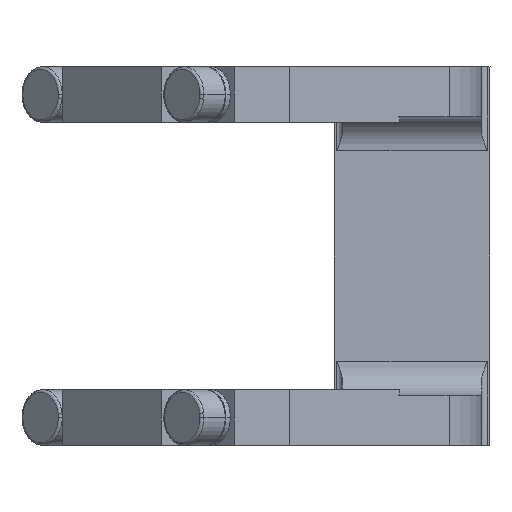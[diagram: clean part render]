
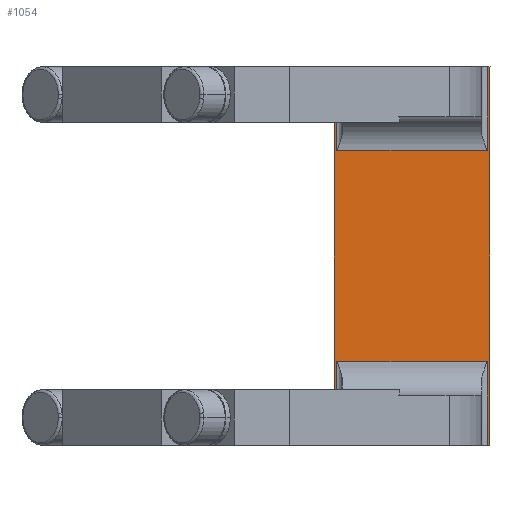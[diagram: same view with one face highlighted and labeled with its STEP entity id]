
A CAD part, front view. The second image highlights one B-rep face of the part: STEP entity #1054.
In plain terms, the highlighted planar face has unit normal (0, -1, 0).
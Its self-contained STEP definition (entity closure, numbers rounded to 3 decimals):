
#419=CARTESIAN_POINT('Vertex',(53.,80.,34.)) ;
#433=CARTESIAN_POINT('Vertex',(25.,80.,34.)) ;
#436=CARTESIAN_POINT('Line Origine',(25.25,80.,34.)) ;
#440=CARTESIAN_POINT('Vertex',(25.5,80.,34.)) ;
#492=CARTESIAN_POINT('Vertex',(52.5,80.,34.)) ;
#495=CARTESIAN_POINT('Line Origine',(52.75,80.,34.)) ;
#665=CARTESIAN_POINT('Line Origine',(53.,80.,0.)) ;
#669=CARTESIAN_POINT('Vertex',(53.,80.,-34.)) ;
#834=CARTESIAN_POINT('Vertex',(25.,80.,-34.)) ;
#837=CARTESIAN_POINT('Line Origine',(25.,80.,0.)) ;
#983=CARTESIAN_POINT('Axis2P3D Location',(25.,80.,0.)) ;
#988=CARTESIAN_POINT('Line Origine',(25.5,80.,26.5)) ;
#992=CARTESIAN_POINT('Vertex',(25.5,80.,19.)) ;
#995=CARTESIAN_POINT('Line Origine',(25.25,80.,-34.)) ;
#999=CARTESIAN_POINT('Vertex',(25.5,80.,-34.)) ;
#1002=CARTESIAN_POINT('Line Origine',(25.5,80.,-26.5)) ;
#1006=CARTESIAN_POINT('Vertex',(25.5,80.,-19.)) ;
#1009=CARTESIAN_POINT('Line Origine',(39.,80.,-19.)) ;
#1013=CARTESIAN_POINT('Vertex',(52.5,80.,-19.)) ;
#1016=CARTESIAN_POINT('Line Origine',(52.5,80.,-26.5)) ;
#1020=CARTESIAN_POINT('Vertex',(52.5,80.,-34.)) ;
#1023=CARTESIAN_POINT('Line Origine',(52.75,80.,-34.)) ;
#1028=CARTESIAN_POINT('Line Origine',(52.5,80.,26.5)) ;
#1032=CARTESIAN_POINT('Vertex',(52.5,80.,19.)) ;
#1035=CARTESIAN_POINT('Line Origine',(39.,80.,19.)) ;
#437=DIRECTION('Vector Direction',(1.,0.,0.)) ;
#496=DIRECTION('Vector Direction',(1.,0.,0.)) ;
#666=DIRECTION('Vector Direction',(0.,0.,1.)) ;
#838=DIRECTION('Vector Direction',(0.,0.,1.)) ;
#984=DIRECTION('Axis2P3D Direction',(0.,-1.,0.)) ;
#985=DIRECTION('Axis2P3D XDirection',(1.,0.,0.)) ;
#989=DIRECTION('Vector Direction',(0.,0.,1.)) ;
#996=DIRECTION('Vector Direction',(1.,0.,0.)) ;
#1003=DIRECTION('Vector Direction',(0.,0.,1.)) ;
#1010=DIRECTION('Vector Direction',(-1.,0.,0.)) ;
#1017=DIRECTION('Vector Direction',(0.,0.,1.)) ;
#1024=DIRECTION('Vector Direction',(1.,0.,0.)) ;
#1029=DIRECTION('Vector Direction',(0.,0.,1.)) ;
#1036=DIRECTION('Vector Direction',(-1.,0.,0.)) ;
#986=AXIS2_PLACEMENT_3D('Plane Axis2P3D',#983,#984,#985) ;
#1041=ORIENTED_EDGE('',*,*,#994,.T.) ;
#1042=ORIENTED_EDGE('',*,*,#442,.F.) ;
#1043=ORIENTED_EDGE('',*,*,#841,.F.) ;
#1044=ORIENTED_EDGE('',*,*,#1001,.T.) ;
#1045=ORIENTED_EDGE('',*,*,#1008,.T.) ;
#1046=ORIENTED_EDGE('',*,*,#1015,.F.) ;
#1047=ORIENTED_EDGE('',*,*,#1022,.F.) ;
#1048=ORIENTED_EDGE('',*,*,#1027,.T.) ;
#1049=ORIENTED_EDGE('',*,*,#671,.T.) ;
#1050=ORIENTED_EDGE('',*,*,#499,.F.) ;
#1051=ORIENTED_EDGE('',*,*,#1034,.F.) ;
#1052=ORIENTED_EDGE('',*,*,#1039,.T.) ;
#438=VECTOR('Line Direction',#437,1.) ;
#497=VECTOR('Line Direction',#496,1.) ;
#667=VECTOR('Line Direction',#666,1.) ;
#839=VECTOR('Line Direction',#838,1.) ;
#990=VECTOR('Line Direction',#989,1.) ;
#997=VECTOR('Line Direction',#996,1.) ;
#1004=VECTOR('Line Direction',#1003,1.) ;
#1011=VECTOR('Line Direction',#1010,1.) ;
#1018=VECTOR('Line Direction',#1017,1.) ;
#1025=VECTOR('Line Direction',#1024,1.) ;
#1030=VECTOR('Line Direction',#1029,1.) ;
#1037=VECTOR('Line Direction',#1036,1.) ;
#1054=ADVANCED_FACE('Brep With Voids',(#1053),#987,.T.) ;
#442=EDGE_CURVE('',#434,#441,#439,.T.) ;
#499=EDGE_CURVE('',#493,#420,#498,.T.) ;
#671=EDGE_CURVE('',#670,#420,#668,.T.) ;
#841=EDGE_CURVE('',#835,#434,#840,.T.) ;
#994=EDGE_CURVE('',#993,#441,#991,.T.) ;
#1001=EDGE_CURVE('',#835,#1000,#998,.T.) ;
#1008=EDGE_CURVE('',#1000,#1007,#1005,.T.) ;
#1015=EDGE_CURVE('',#1014,#1007,#1012,.T.) ;
#1022=EDGE_CURVE('',#1021,#1014,#1019,.T.) ;
#1027=EDGE_CURVE('',#1021,#670,#1026,.T.) ;
#1034=EDGE_CURVE('',#1033,#493,#1031,.T.) ;
#1039=EDGE_CURVE('',#1033,#993,#1038,.T.) ;
#1040=EDGE_LOOP('',(#1041,#1042,#1043,#1044,#1045,#1046,#1047,#1048,#1049,#1050,#1051,#1052)) ;
#1053=FACE_OUTER_BOUND('',#1040,.T.) ;
#439=LINE('Line',#436,#438) ;
#498=LINE('Line',#495,#497) ;
#668=LINE('Line',#665,#667) ;
#840=LINE('Line',#837,#839) ;
#991=LINE('Line',#988,#990) ;
#998=LINE('Line',#995,#997) ;
#1005=LINE('Line',#1002,#1004) ;
#1012=LINE('Line',#1009,#1011) ;
#1019=LINE('Line',#1016,#1018) ;
#1026=LINE('Line',#1023,#1025) ;
#1031=LINE('Line',#1028,#1030) ;
#1038=LINE('Line',#1035,#1037) ;
#987=PLANE('Plane',#986) ;
#420=VERTEX_POINT('',#419) ;
#434=VERTEX_POINT('',#433) ;
#441=VERTEX_POINT('',#440) ;
#493=VERTEX_POINT('',#492) ;
#670=VERTEX_POINT('',#669) ;
#835=VERTEX_POINT('',#834) ;
#993=VERTEX_POINT('',#992) ;
#1000=VERTEX_POINT('',#999) ;
#1007=VERTEX_POINT('',#1006) ;
#1014=VERTEX_POINT('',#1013) ;
#1021=VERTEX_POINT('',#1020) ;
#1033=VERTEX_POINT('',#1032) ;
